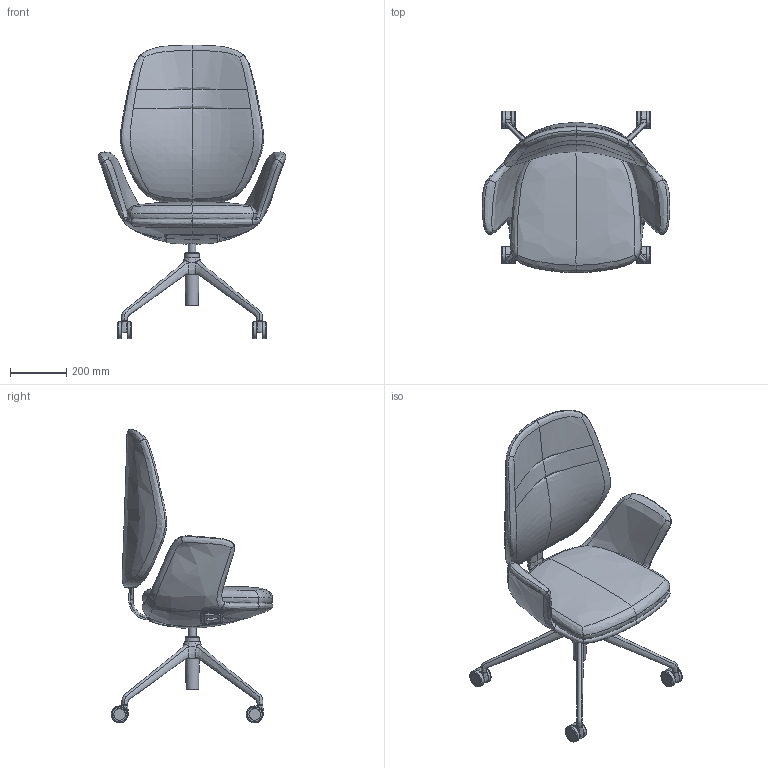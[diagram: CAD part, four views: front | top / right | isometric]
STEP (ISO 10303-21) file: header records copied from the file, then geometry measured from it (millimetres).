
FILE_DESCRIPTION(/* description */ (''),/* implementation_level */ '2;1');
FILE_NAME(/* name */ 'Muuna MU 3101-04',/* time_stamp */ '2020-12-14T11:03:15+01:00',/* author */ (''),/* organization */ (''),/* preprocessor_version */ 'ST-DEVELOPER v16.5',/* originating_system */ '',/* authorisation */ '');
FILE_SCHEMA (('AUTOMOTIVE_DESIGN'));
Length unit declared in the file: millimetre
Products named in the file (1): Document
Bounding box: 667.97 x 575.25 x 1045.1 mm (x, y, z)
Volume: 12428549.4 mm3; surface area: 2195887 mm2
Topology: 4 solids, 32 shells, 406 faces, 951 edges, 580 vertices
Faces by surface type: bspline 321, plane 85
Entity records: 41565 total; most frequent: CARTESIAN_POINT 36037, ORIENTED_EDGE 1777, EDGE_CURVE 940, VERTEX_POINT 574, B_SPLINE_CURVE_WITH_KNOTS 445, EDGE_LOOP 421, ADVANCED_FACE 406, FACE_OUTER_BOUND 406
